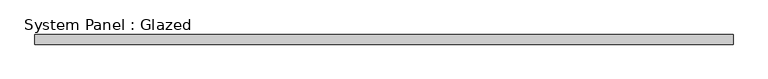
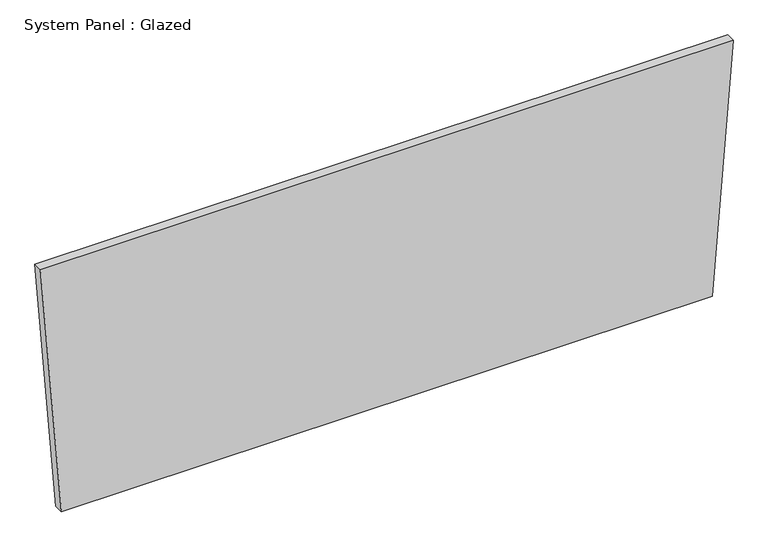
"""IFC4 building model written with IfcOpenShell, lengths in millimetres: plate geometry, System Panel : Glazed."""

from ifc_helpers import new_model, si_unit, frame, origin, place, context, project, spatial, polyline, outline, extrude, source, transform, mapped, element, save


def system_panel_glazed_3c71aec2(model_context):
    return source(origin(), model_context, "Body", "SweptSolid", [
        extrude(outline(polyline([(0.0, -867.3486642), (0.0002089, 867.3486808), (701.7727671, 923.1911918), (701.7727671, -923.1911918), (0.0, -867.3486642)])), frame((0.0, 19.05, 0.0), z_axis=(0.0, 1.0, 0.0), x_axis=(0.0, 0.0, 1.0)), (0.0, 0.0, 1.0), 25.4),
    ])


if __name__ == "__main__":
    model = new_model("IFC4")
    model_context = context("Model", 3, world=origin())
    ifc_project = project(units=[si_unit("LENGTHUNIT", "METRE", prefix="MILLI")], contexts=[model_context])
    site = spatial("IfcSite", under=ifc_project)
    building = spatial("IfcBuilding", under=site)
    placement = place(None, origin())
    system_panel_glazed_shape = system_panel_glazed_3c71aec2(model_context)
    element("IfcPlate", 1, ObjectType="System Panel : Glazed", at=placement, inside=building, context=model_context, shape_type="MappedRepresentation", body=[
        mapped(system_panel_glazed_shape, transform((0.0, 0.0, 0.0), x_axis=(1.0, 0.0, 0.0), y_axis=(0.0, 1.0, 0.0), z_axis=(0.0, 0.0, 1.0))),
    ])
    save(model, "model.ifc")
